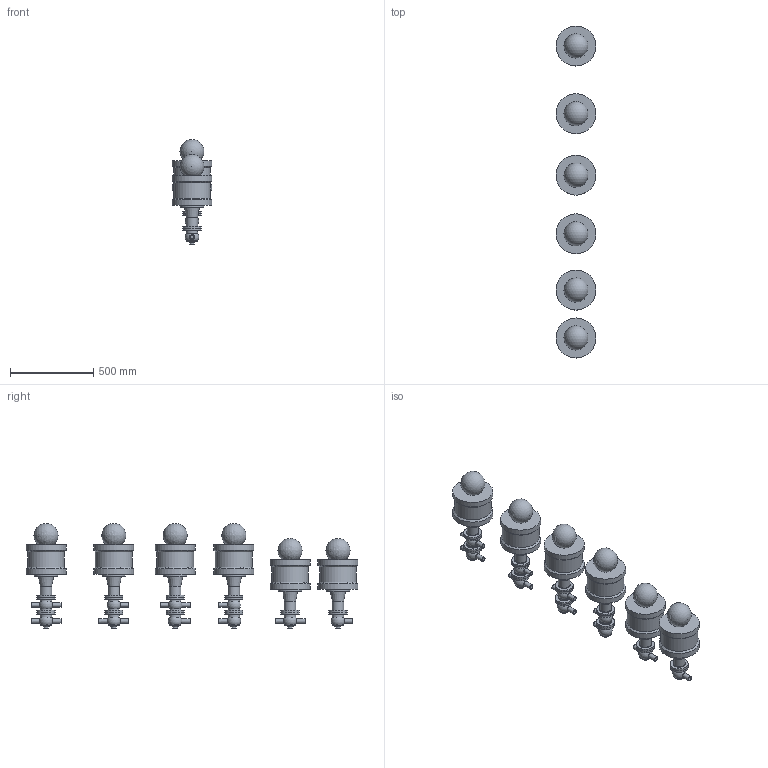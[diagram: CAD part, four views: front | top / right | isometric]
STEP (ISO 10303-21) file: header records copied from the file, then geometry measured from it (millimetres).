
FILE_DESCRIPTION(/* description */ (''),/* implementation_level */ '2;1');
FILE_NAME(/* name */ 'C:\Users\marz-m\Desktop\PDF\BBZQ 3D STEP\BBZQ-DN25-CIL.207.stp',/* time_stamp */ '2018-04-13T14:17:33+02:00',/* author */ ('marz-m'),/* organization */ (''),/* preprocessor_version */ 'ST-DEVELOPER v17',/* originating_system */ 'Autodesk Inventor 2018',/* authorisation */ '');
FILE_SCHEMA (('AUTOMOTIVE_DESIGN { 1 0 10303 214 3 1 1 }'));
Length unit declared in the file: millimetre
Products named in the file (8): BBZQ-CIL.207-DN25; COR-INF-L-BBZQ-DN028X2.5-SALD; COR-INF-T-BBZQ-DN028X2.5-SALD; assemblaggio dn40 per cil 207-360; CILINDRO 207; SAGOMA-GIOTTO-; CORPO-SUP-BBZQ-L-DN254-SALD; CORPO-SUP-BBZQ-T-DN254-SALD
Assembly tree (28 placements, depth 2):
  BBZQ-CIL.207-DN25
    COR-INF-L-BBZQ-DN028X2.5-SALD  x3
    COR-INF-T-BBZQ-DN028X2.5-SALD  x3
    assemblaggio dn40 per cil 207-360  x6
    CILINDRO 207  x6
    SAGOMA-GIOTTO-  x6
    CORPO-SUP-BBZQ-L-DN254-SALD  x2
    CORPO-SUP-BBZQ-T-DN254-SALD  x2
Bounding box: 240 x 1992.61 x 630.47 mm (x, y, z)
Volume: 62902419 mm3; surface area: 2757172.7 mm2
Topology: 28 solids, 28 shells, 312 faces, 750 edges, 558 vertices
Faces by surface type: cylinder 117, plane 112, torus 32, sphere 27, cone 24
Full cylindrical faces by diameter (mm): 20.4 x2, 23 x12, 25.4 x12, 28 x15, 68 x20, 69 x6, 69.8 x6, 109 x20, 141 x6, 221 x6, 240 x12
Entity records: 3420 total; most frequent: CARTESIAN_POINT 705, DIRECTION 612, ORIENTED_EDGE 426, AXIS2_PLACEMENT_3D 286, EDGE_CURVE 213, CIRCLE 159, VERTEX_POINT 159, EDGE_LOOP 114
